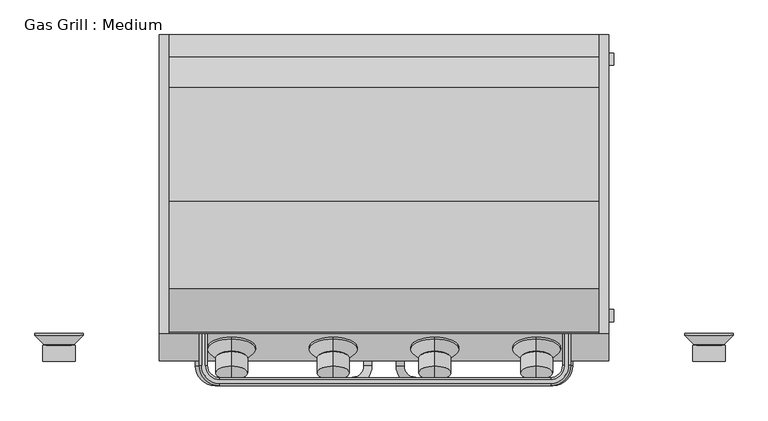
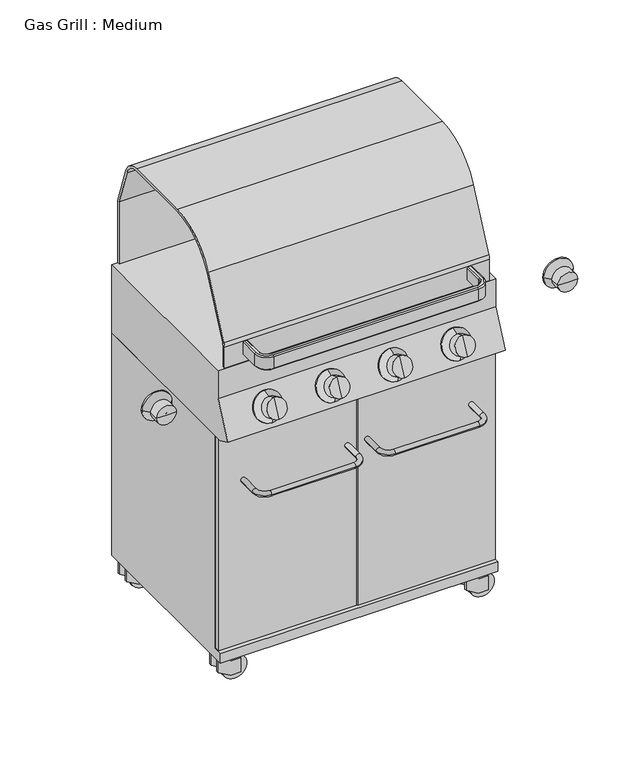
"""IFC4 building model written with IfcOpenShell, lengths in millimetres: proxy geometry, Gas Grill : Medium."""

from ifc_helpers import new_model, si_unit, point, frame, frame_2d, origin, place, context, project, spatial, polyline, circle_curve, ellipse_curve, trimmed, segment, composite_curve, outline, extrude, source, transform, mapped, element, save
from ifc_brep_helpers import plane_surface, cylinder_surface, revolved_surface, advanced_brep


def gas_grill_medium_e833fd83(model_context):
    return source(origin(), model_context, "Body", "SolidModel", [
        advanced_brep(
        [(-80.4333333, -237.6710003, 774.7559865), (-80.4333333, -269.8745119, 705.6953331), (-80.4333333, -253.7727561, 740.2256598), (-80.4333333, -240.5485275, 776.0977995), (-80.4333333, -272.7520391, 707.0371461), (-80.4333333, -259.5355585, 769.1870854), (-80.4333333, -279.6627532, 726.024177), (-80.4333333, -260.3034156, 771.2967555), (-80.4333333, -281.7724233, 725.2563199), (-80.4333333, -283.3236334, 782.0312593), (-80.4333333, -304.7926411, 735.9908238), (-80.4333333, -294.0581372, 759.0110415)],
        [
            (0, 1, circle_curve(frame((-80.4333333, -253.7727561, 740.2256598), z_axis=(0.0, 0.9063077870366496, -0.42261826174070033), x_axis=(0.0, -0.42261826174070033, -0.9063077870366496)), 38.1)),
            (1, 2),
            (2, 0),
            (1, 0, circle_curve(frame((-80.4333333, -253.7727561, 740.2256598), z_axis=(0.0, 0.9063077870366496, -0.42261826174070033), x_axis=(0.0, -0.42261826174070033, -0.9063077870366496)), 38.1)),
            (3, 4, circle_curve(frame((-80.4333333, -256.6502833, 741.5674728), z_axis=(0.0, 0.9063077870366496, -0.42261826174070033), x_axis=(0.0, -0.42261826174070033, -0.9063077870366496)), 38.1)),
            (4, 1),
            (0, 3),
            (4, 3, circle_curve(frame((-80.4333333, -256.6502833, 741.5674728), z_axis=(0.0, 0.9063077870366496, -0.42261826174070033), x_axis=(0.0, -0.42261826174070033, -0.9063077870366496)), 38.1)),
            (5, 6, circle_curve(frame((-80.4333333, -269.5991558, 747.6056312), z_axis=(0.0, 0.9063077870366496, -0.42261826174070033), x_axis=(0.0, -0.42261826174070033, -0.9063077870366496)), 23.8125)),
            (6, 4),
            (3, 5),
            (6, 5, circle_curve(frame((-80.4333333, -269.5991558, 747.6056312), z_axis=(0.0, 0.9063077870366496, -0.42261826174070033), x_axis=(0.0, -0.42261826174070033, -0.9063077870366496)), 23.8125)),
            (7, 8, circle_curve(frame((-80.4333333, -271.0379194, 748.2765377), z_axis=(0.0, 0.9063077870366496, -0.42261826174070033), x_axis=(0.0, -0.42261826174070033, -0.9063077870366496)), 25.4)),
            (8, 6),
            (5, 7),
            (8, 7, circle_curve(frame((-80.4333333, -271.0379194, 748.2765377), z_axis=(0.0, 0.9063077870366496, -0.42261826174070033), x_axis=(0.0, -0.42261826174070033, -0.9063077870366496)), 25.4)),
            (9, 10, circle_curve(frame((-80.4333333, -294.0581372, 759.0110415), z_axis=(0.0, 0.9063077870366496, -0.42261826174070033), x_axis=(0.0, -0.42261826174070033, -0.9063077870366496)), 25.4)),
            (10, 8),
            (7, 9),
            (10, 9, circle_curve(frame((-80.4333333, -294.0581372, 759.0110415), z_axis=(0.0, 0.9063077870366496, -0.42261826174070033), x_axis=(0.0, -0.42261826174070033, -0.9063077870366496)), 25.4)),
            (11, 10),
            (9, 11),
        ],
        [
            plane_surface(frame((-80.4333333, -253.7727561, 740.2256598), z_axis=(0.0, 0.9063077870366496, -0.42261826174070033), x_axis=(0.0, -0.42261826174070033, -0.9063077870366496))),
            cylinder_surface(frame((-80.4333333, -294.0581372, 759.0110415), z_axis=(0.0, -0.9063077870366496, 0.42261826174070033), x_axis=(0.0, -0.42261826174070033, -0.9063077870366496)), 38.1),
            revolved_surface(polyline([(-80.4333333, -272.7520391, 707.0371461), (-80.4333333, -279.6627532, 726.024177)]), (-80.4333333, -294.0581372, 759.0110415), (0.0, -0.9063077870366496, 0.42261826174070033)),
            revolved_surface(polyline([(-80.4333333, -279.6627532, 726.024177), (-80.4333333, -281.7724233, 725.2563199)]), (-80.4333333, -294.0581372, 759.0110415), (0.0, -0.9063077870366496, 0.42261826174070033)),
            cylinder_surface(frame((-80.4333333, -294.0581372, 759.0110415), z_axis=(0.0, -0.9063077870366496, 0.42261826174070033), x_axis=(0.0, -0.42261826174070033, -0.9063077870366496)), 25.4),
            plane_surface(frame((-80.4333333, -294.0581372, 759.0110415), z_axis=(0.0, -0.9063077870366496, 0.42261826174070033), x_axis=(0.0, -0.42261826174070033, -0.9063077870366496))),
        ],
        [
            (0, [[1, 2, 3]]),
            (0, [[4, -3, -2]]),
            (1, [[5, 6, -1, 7]]),
            (1, [[8, -7, -4, -6]]),
            (2, [[9, 10, -5, 11]]),
            (2, [[12, -11, -8, -10]]),
            (3, [[13, 14, -9, 15]]),
            (3, [[16, -15, -12, -14]]),
            (4, [[17, 18, -13, 19]]),
            (4, [[20, -19, -16, -18]]),
            (5, [[21, -17, 22]]),
            (5, [[-22, -20, -21]]),
        ],
    ),
        advanced_brep(
        [(80.4333333, -237.6710003, 774.7559865), (80.4333333, -269.8745119, 705.6953331), (80.4333333, -253.7727561, 740.2256598), (80.4333333, -240.5485275, 776.0977995), (80.4333333, -272.7520391, 707.0371461), (80.4333333, -259.5355585, 769.1870854), (80.4333333, -279.6627532, 726.024177), (80.4333333, -260.3034156, 771.2967555), (80.4333333, -281.7724233, 725.2563199), (80.4333333, -283.3236334, 782.0312593), (80.4333333, -304.7926411, 735.9908238), (80.4333333, -294.0581372, 759.0110415)],
        [
            (0, 1, circle_curve(frame((80.4333333, -253.7727561, 740.2256598), z_axis=(0.0, 0.9063077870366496, -0.42261826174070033), x_axis=(0.0, -0.42261826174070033, -0.9063077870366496)), 38.1)),
            (1, 2),
            (2, 0),
            (1, 0, circle_curve(frame((80.4333333, -253.7727561, 740.2256598), z_axis=(0.0, 0.9063077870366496, -0.42261826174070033), x_axis=(0.0, -0.42261826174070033, -0.9063077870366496)), 38.1)),
            (3, 4, circle_curve(frame((80.4333333, -256.6502833, 741.5674728), z_axis=(0.0, 0.9063077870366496, -0.42261826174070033), x_axis=(0.0, -0.42261826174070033, -0.9063077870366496)), 38.1)),
            (4, 1),
            (0, 3),
            (4, 3, circle_curve(frame((80.4333333, -256.6502833, 741.5674728), z_axis=(0.0, 0.9063077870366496, -0.42261826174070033), x_axis=(0.0, -0.42261826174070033, -0.9063077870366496)), 38.1)),
            (5, 6, circle_curve(frame((80.4333333, -269.5991558, 747.6056312), z_axis=(0.0, 0.9063077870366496, -0.42261826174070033), x_axis=(0.0, -0.42261826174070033, -0.9063077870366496)), 23.8125)),
            (6, 4),
            (3, 5),
            (6, 5, circle_curve(frame((80.4333333, -269.5991558, 747.6056312), z_axis=(0.0, 0.9063077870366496, -0.42261826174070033), x_axis=(0.0, -0.42261826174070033, -0.9063077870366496)), 23.8125)),
            (7, 8, circle_curve(frame((80.4333333, -271.0379194, 748.2765377), z_axis=(0.0, 0.9063077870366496, -0.42261826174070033), x_axis=(0.0, -0.42261826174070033, -0.9063077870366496)), 25.4)),
            (8, 6),
            (5, 7),
            (8, 7, circle_curve(frame((80.4333333, -271.0379194, 748.2765377), z_axis=(0.0, 0.9063077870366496, -0.42261826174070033), x_axis=(0.0, -0.42261826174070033, -0.9063077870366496)), 25.4)),
            (9, 10, circle_curve(frame((80.4333333, -294.0581372, 759.0110415), z_axis=(0.0, 0.9063077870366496, -0.42261826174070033), x_axis=(0.0, -0.42261826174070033, -0.9063077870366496)), 25.4)),
            (10, 8),
            (7, 9),
            (10, 9, circle_curve(frame((80.4333333, -294.0581372, 759.0110415), z_axis=(0.0, 0.9063077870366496, -0.42261826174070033), x_axis=(0.0, -0.42261826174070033, -0.9063077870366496)), 25.4)),
            (11, 10),
            (9, 11),
        ],
        [
            plane_surface(frame((80.4333333, -253.7727561, 740.2256598), z_axis=(0.0, 0.9063077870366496, -0.42261826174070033), x_axis=(0.0, -0.42261826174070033, -0.9063077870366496))),
            cylinder_surface(frame((80.4333333, -294.0581372, 759.0110415), z_axis=(0.0, -0.9063077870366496, 0.42261826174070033), x_axis=(0.0, -0.42261826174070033, -0.9063077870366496)), 38.1),
            revolved_surface(polyline([(80.4333333, -272.7520391, 707.0371461), (80.4333333, -279.6627532, 726.024177)]), (80.4333333, -294.0581372, 759.0110415), (0.0, -0.9063077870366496, 0.42261826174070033)),
            revolved_surface(polyline([(80.4333333, -279.6627532, 726.024177), (80.4333333, -281.7724233, 725.2563199)]), (80.4333333, -294.0581372, 759.0110415), (0.0, -0.9063077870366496, 0.42261826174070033)),
            cylinder_surface(frame((80.4333333, -294.0581372, 759.0110415), z_axis=(0.0, -0.9063077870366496, 0.42261826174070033), x_axis=(0.0, -0.42261826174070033, -0.9063077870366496)), 25.4),
            plane_surface(frame((80.4333333, -294.0581372, 759.0110415), z_axis=(0.0, -0.9063077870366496, 0.42261826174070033), x_axis=(0.0, -0.42261826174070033, -0.9063077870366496))),
        ],
        [
            (0, [[1, 2, 3]]),
            (0, [[4, -3, -2]]),
            (1, [[5, 6, -1, 7]]),
            (1, [[8, -7, -4, -6]]),
            (2, [[9, 10, -5, 11]]),
            (2, [[12, -11, -8, -10]]),
            (3, [[13, 14, -9, 15]]),
            (3, [[16, -15, -12, -14]]),
            (4, [[17, 18, -13, 19]]),
            (4, [[20, -19, -16, -18]]),
            (5, [[21, -17, 22]]),
            (5, [[-22, -20, -21]]),
        ],
    ),
        advanced_brep(
        [(-476.25, -231.775, 825.5), (-514.35, -231.775, 825.5), (-552.45, -231.775, 825.5), (-476.25, -234.95, 825.5), (-552.45, -234.95, 825.5), (-490.5375, -249.2375, 825.5), (-538.1625, -249.2375, 825.5), (-488.95, -250.825, 825.5), (-539.75, -250.825, 825.5), (-488.95, -276.225, 825.5), (-539.75, -276.225, 825.5), (-514.35, -276.225, 825.5)],
        [
            (0, 1),
            (1, 2),
            (2, 0, circle_curve(frame((-514.35, -231.775, 825.5), z_axis=(0.0, 1.0, 0.0), x_axis=(-1.0, 0.0, 0.0)), 38.1)),
            (0, 2, circle_curve(frame((-514.35, -231.775, 825.5), z_axis=(0.0, 1.0, 0.0), x_axis=(-1.0, 0.0, 0.0)), 38.1)),
            (3, 0),
            (2, 4),
            (4, 3, circle_curve(frame((-514.35, -234.95, 825.5), z_axis=(0.0, 1.0, 0.0), x_axis=(-1.0, 0.0, 0.0)), 38.1)),
            (3, 4, circle_curve(frame((-514.35, -234.95, 825.5), z_axis=(0.0, 1.0, 0.0), x_axis=(-1.0, 0.0, 0.0)), 38.1)),
            (5, 3),
            (4, 6),
            (6, 5, circle_curve(frame((-514.35, -249.2375, 825.5), z_axis=(0.0, 1.0, 0.0), x_axis=(-1.0, 0.0, 0.0)), 23.8125)),
            (5, 6, circle_curve(frame((-514.35, -249.2375, 825.5), z_axis=(0.0, 1.0, 0.0), x_axis=(-1.0, 0.0, 0.0)), 23.8125)),
            (7, 5),
            (6, 8),
            (8, 7, circle_curve(frame((-514.35, -250.825, 825.5), z_axis=(0.0, 1.0, 0.0), x_axis=(-1.0, 0.0, 0.0)), 25.4)),
            (7, 8, circle_curve(frame((-514.35, -250.825, 825.5), z_axis=(0.0, 1.0, 0.0), x_axis=(-1.0, 0.0, 0.0)), 25.4)),
            (9, 7),
            (8, 10),
            (10, 9, circle_curve(frame((-514.35, -276.225, 825.5), z_axis=(0.0, 1.0, 0.0), x_axis=(-1.0, 0.0, 0.0)), 25.4)),
            (9, 10, circle_curve(frame((-514.35, -276.225, 825.5), z_axis=(0.0, 1.0, 0.0), x_axis=(-1.0, 0.0, 0.0)), 25.4)),
            (11, 9),
            (10, 11),
        ],
        [
            plane_surface(frame((-514.35, -231.775, 825.5), z_axis=(0.0, 1.0, 0.0), x_axis=(-1.0, 0.0, 0.0))),
            cylinder_surface(frame((-514.35, -276.225, 825.5), z_axis=(0.0, -1.0, 0.0), x_axis=(-1.0, 0.0, 0.0)), 38.1),
            revolved_surface(polyline([(-552.45, -234.95, 825.5), (-538.1625, -249.2375, 825.5)]), (-514.35, -276.225, 825.5), (0.0, -1.0, 0.0)),
            revolved_surface(polyline([(-538.1625, -249.2375, 825.5), (-539.75, -250.825, 825.5)]), (-514.35, -276.225, 825.5), (0.0, -1.0, 0.0)),
            cylinder_surface(frame((-514.35, -276.225, 825.5), z_axis=(0.0, -1.0, 0.0), x_axis=(-1.0, 0.0, 0.0)), 25.4),
            plane_surface(frame((-514.35, -276.225, 825.5), z_axis=(0.0, -1.0, 0.0), x_axis=(-1.0, 0.0, 0.0))),
        ],
        [
            (0, [[1, 2, 3]]),
            (0, [[-2, -1, 4]]),
            (1, [[5, -3, 6, 7]]),
            (1, [[-6, -4, -5, 8]]),
            (2, [[9, -7, 10, 11]]),
            (2, [[-10, -8, -9, 12]]),
            (3, [[13, -11, 14, 15]]),
            (3, [[-14, -12, -13, 16]]),
            (4, [[17, -15, 18, 19]]),
            (4, [[-18, -16, -17, 20]]),
            (5, [[21, -19, 22]]),
            (5, [[-22, -20, -21]]),
        ],
    ),
        advanced_brep(
        [(-241.3, -237.6710003, 774.7559865), (-241.3, -269.8745119, 705.6953331), (-241.3, -253.7727561, 740.2256598), (-241.3, -240.5485275, 776.0977995), (-241.3, -272.7520391, 707.0371461), (-241.3, -259.5355585, 769.1870854), (-241.3, -279.6627532, 726.024177), (-241.3, -260.3034156, 771.2967555), (-241.3, -281.7724233, 725.2563199), (-241.3, -283.3236334, 782.0312593), (-241.3, -304.7926411, 735.9908238), (-241.3, -294.0581372, 759.0110415)],
        [
            (0, 1, circle_curve(frame((-241.3, -253.7727561, 740.2256598), z_axis=(0.0, 0.9063077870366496, -0.42261826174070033), x_axis=(0.0, -0.42261826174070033, -0.9063077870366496)), 38.1)),
            (1, 2),
            (2, 0),
            (1, 0, circle_curve(frame((-241.3, -253.7727561, 740.2256598), z_axis=(0.0, 0.9063077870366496, -0.42261826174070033), x_axis=(0.0, -0.42261826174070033, -0.9063077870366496)), 38.1)),
            (3, 4, circle_curve(frame((-241.3, -256.6502833, 741.5674728), z_axis=(0.0, 0.9063077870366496, -0.42261826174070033), x_axis=(0.0, -0.42261826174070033, -0.9063077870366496)), 38.1)),
            (4, 1),
            (0, 3),
            (4, 3, circle_curve(frame((-241.3, -256.6502833, 741.5674728), z_axis=(0.0, 0.9063077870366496, -0.42261826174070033), x_axis=(0.0, -0.42261826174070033, -0.9063077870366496)), 38.1)),
            (5, 6, circle_curve(frame((-241.3, -269.5991558, 747.6056312), z_axis=(0.0, 0.9063077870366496, -0.42261826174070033), x_axis=(0.0, -0.42261826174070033, -0.9063077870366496)), 23.8125)),
            (6, 4),
            (3, 5),
            (6, 5, circle_curve(frame((-241.3, -269.5991558, 747.6056312), z_axis=(0.0, 0.9063077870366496, -0.42261826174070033), x_axis=(0.0, -0.42261826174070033, -0.9063077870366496)), 23.8125)),
            (7, 8, circle_curve(frame((-241.3, -271.0379194, 748.2765377), z_axis=(0.0, 0.9063077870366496, -0.42261826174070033), x_axis=(0.0, -0.42261826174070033, -0.9063077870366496)), 25.4)),
            (8, 6),
            (5, 7),
            (8, 7, circle_curve(frame((-241.3, -271.0379194, 748.2765377), z_axis=(0.0, 0.9063077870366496, -0.42261826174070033), x_axis=(0.0, -0.42261826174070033, -0.9063077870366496)), 25.4)),
            (9, 10, circle_curve(frame((-241.3, -294.0581372, 759.0110415), z_axis=(0.0, 0.9063077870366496, -0.42261826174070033), x_axis=(0.0, -0.42261826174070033, -0.9063077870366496)), 25.4)),
            (10, 8),
            (7, 9),
            (10, 9, circle_curve(frame((-241.3, -294.0581372, 759.0110415), z_axis=(0.0, 0.9063077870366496, -0.42261826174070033), x_axis=(0.0, -0.42261826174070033, -0.9063077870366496)), 25.4)),
            (11, 10),
            (9, 11),
        ],
        [
            plane_surface(frame((-241.3, -253.7727561, 740.2256598), z_axis=(0.0, 0.9063077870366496, -0.42261826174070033), x_axis=(0.0, -0.42261826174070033, -0.9063077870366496))),
            cylinder_surface(frame((-241.3, -294.0581372, 759.0110415), z_axis=(0.0, -0.9063077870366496, 0.42261826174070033), x_axis=(0.0, -0.42261826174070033, -0.9063077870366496)), 38.1),
            revolved_surface(polyline([(-241.3, -272.7520391, 707.0371461), (-241.3, -279.6627532, 726.024177)]), (-241.3, -294.0581372, 759.0110415), (0.0, -0.9063077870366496, 0.42261826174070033)),
            revolved_surface(polyline([(-241.3, -279.6627532, 726.024177), (-241.3, -281.7724233, 725.2563199)]), (-241.3, -294.0581372, 759.0110415), (0.0, -0.9063077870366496, 0.42261826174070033)),
            cylinder_surface(frame((-241.3, -294.0581372, 759.0110415), z_axis=(0.0, -0.9063077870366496, 0.42261826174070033), x_axis=(0.0, -0.42261826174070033, -0.9063077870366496)), 25.4),
            plane_surface(frame((-241.3, -294.0581372, 759.0110415), z_axis=(0.0, -0.9063077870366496, 0.42261826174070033), x_axis=(0.0, -0.42261826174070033, -0.9063077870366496))),
        ],
        [
            (0, [[1, 2, 3]]),
            (0, [[4, -3, -2]]),
            (1, [[5, 6, -1, 7]]),
            (1, [[8, -7, -4, -6]]),
            (2, [[9, 10, -5, 11]]),
            (2, [[12, -11, -8, -10]]),
            (3, [[13, 14, -9, 15]]),
            (3, [[16, -15, -12, -14]]),
            (4, [[17, 18, -13, 19]]),
            (4, [[20, -19, -16, -18]]),
            (5, [[21, -17, 22]]),
            (5, [[-22, -20, -21]]),
        ],
    ),
        advanced_brep(
        [(476.25, -231.775, 825.5), (552.45, -231.775, 825.5), (514.35, -231.775, 825.5), (476.25, -234.95, 825.5), (552.45, -234.95, 825.5), (490.5375, -249.2375, 825.5), (538.1625, -249.2375, 825.5), (488.95, -250.825, 825.5), (539.75, -250.825, 825.5), (488.95, -276.225, 825.5), (539.75, -276.225, 825.5), (514.35, -276.225, 825.5)],
        [
            (0, 1, circle_curve(frame((514.35, -231.775, 825.5), z_axis=(0.0, 1.0, 0.0), x_axis=(1.0, 0.0, 0.0)), 38.1)),
            (1, 2),
            (2, 0),
            (1, 0, circle_curve(frame((514.35, -231.775, 825.5), z_axis=(0.0, 1.0, 0.0), x_axis=(1.0, 0.0, 0.0)), 38.1)),
            (3, 4, circle_curve(frame((514.35, -234.95, 825.5), z_axis=(0.0, 1.0, 0.0), x_axis=(1.0, 0.0, 0.0)), 38.1)),
            (4, 1),
            (0, 3),
            (4, 3, circle_curve(frame((514.35, -234.95, 825.5), z_axis=(0.0, 1.0, 0.0), x_axis=(1.0, 0.0, 0.0)), 38.1)),
            (5, 6, circle_curve(frame((514.35, -249.2375, 825.5), z_axis=(0.0, 1.0, 0.0), x_axis=(1.0, 0.0, 0.0)), 23.8125)),
            (6, 4),
            (3, 5),
            (6, 5, circle_curve(frame((514.35, -249.2375, 825.5), z_axis=(0.0, 1.0, 0.0), x_axis=(1.0, 0.0, 0.0)), 23.8125)),
            (7, 8, circle_curve(frame((514.35, -250.825, 825.5), z_axis=(0.0, 1.0, 0.0), x_axis=(1.0, 0.0, 0.0)), 25.4)),
            (8, 6),
            (5, 7),
            (8, 7, circle_curve(frame((514.35, -250.825, 825.5), z_axis=(0.0, 1.0, 0.0), x_axis=(1.0, 0.0, 0.0)), 25.4)),
            (9, 10, circle_curve(frame((514.35, -276.225, 825.5), z_axis=(0.0, 1.0, 0.0), x_axis=(1.0, 0.0, 0.0)), 25.4)),
            (10, 8),
            (7, 9),
            (10, 9, circle_curve(frame((514.35, -276.225, 825.5), z_axis=(0.0, 1.0, 0.0), x_axis=(1.0, 0.0, 0.0)), 25.4)),
            (11, 10),
            (9, 11),
        ],
        [
            plane_surface(frame((514.35, -231.775, 825.5), z_axis=(0.0, 1.0, 0.0), x_axis=(1.0, 0.0, 0.0))),
            cylinder_surface(frame((514.35, -276.225, 825.5), z_axis=(0.0, -1.0, 0.0), x_axis=(1.0, 0.0, 0.0)), 38.1),
            revolved_surface(polyline([(552.45, -234.95, 825.5), (538.1625, -249.2375, 825.5)]), (514.35, -276.225, 825.5), (0.0, -1.0, 0.0)),
            revolved_surface(polyline([(538.1625, -249.2375, 825.5), (539.75, -250.825, 825.5)]), (514.35, -276.225, 825.5), (0.0, -1.0, 0.0)),
            cylinder_surface(frame((514.35, -276.225, 825.5), z_axis=(0.0, -1.0, 0.0), x_axis=(1.0, 0.0, 0.0)), 25.4),
            plane_surface(frame((514.35, -276.225, 825.5), z_axis=(0.0, -1.0, 0.0), x_axis=(1.0, 0.0, 0.0))),
        ],
        [
            (0, [[1, 2, 3]]),
            (0, [[4, -3, -2]]),
            (1, [[5, 6, -1, 7]]),
            (1, [[8, -7, -4, -6]]),
            (2, [[9, 10, -5, 11]]),
            (2, [[12, -11, -8, -10]]),
            (3, [[13, 14, -9, 15]]),
            (3, [[16, -15, -12, -14]]),
            (4, [[17, 18, -13, 19]]),
            (4, [[20, -19, -16, -18]]),
            (5, [[21, -17, 22]]),
            (5, [[-22, -20, -21]]),
        ],
    ),
        advanced_brep(
        [(241.3, -237.6710003, 774.7559865), (241.3, -269.8745119, 705.6953331), (241.3, -253.7727561, 740.2256598), (241.3, -240.5485275, 776.0977995), (241.3, -272.7520391, 707.0371461), (241.3, -259.5355585, 769.1870854), (241.3, -279.6627532, 726.024177), (241.3, -260.3034156, 771.2967555), (241.3, -281.7724233, 725.2563199), (241.3, -283.3236334, 782.0312593), (241.3, -304.7926411, 735.9908238), (241.3, -294.0581372, 759.0110415)],
        [
            (0, 1, circle_curve(frame((241.3, -253.7727561, 740.2256598), z_axis=(0.0, 0.9063077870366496, -0.42261826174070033), x_axis=(0.0, -0.42261826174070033, -0.9063077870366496)), 38.1)),
            (1, 2),
            (2, 0),
            (1, 0, circle_curve(frame((241.3, -253.7727561, 740.2256598), z_axis=(0.0, 0.9063077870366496, -0.42261826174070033), x_axis=(0.0, -0.42261826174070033, -0.9063077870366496)), 38.1)),
            (3, 4, circle_curve(frame((241.3, -256.6502833, 741.5674728), z_axis=(0.0, 0.9063077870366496, -0.42261826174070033), x_axis=(0.0, -0.42261826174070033, -0.9063077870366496)), 38.1)),
            (4, 1),
            (0, 3),
            (4, 3, circle_curve(frame((241.3, -256.6502833, 741.5674728), z_axis=(0.0, 0.9063077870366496, -0.42261826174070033), x_axis=(0.0, -0.42261826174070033, -0.9063077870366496)), 38.1)),
            (5, 6, circle_curve(frame((241.3, -269.5991558, 747.6056312), z_axis=(0.0, 0.9063077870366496, -0.42261826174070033), x_axis=(0.0, -0.42261826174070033, -0.9063077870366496)), 23.8125)),
            (6, 4),
            (3, 5),
            (6, 5, circle_curve(frame((241.3, -269.5991558, 747.6056312), z_axis=(0.0, 0.9063077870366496, -0.42261826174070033), x_axis=(0.0, -0.42261826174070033, -0.9063077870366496)), 23.8125)),
            (7, 8, circle_curve(frame((241.3, -271.0379194, 748.2765377), z_axis=(0.0, 0.9063077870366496, -0.42261826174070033), x_axis=(0.0, -0.42261826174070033, -0.9063077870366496)), 25.4)),
            (8, 6),
            (5, 7),
            (8, 7, circle_curve(frame((241.3, -271.0379194, 748.2765377), z_axis=(0.0, 0.9063077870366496, -0.42261826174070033), x_axis=(0.0, -0.42261826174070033, -0.9063077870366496)), 25.4)),
            (9, 10, circle_curve(frame((241.3, -294.0581372, 759.0110415), z_axis=(0.0, 0.9063077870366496, -0.42261826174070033), x_axis=(0.0, -0.42261826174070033, -0.9063077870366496)), 25.4)),
            (10, 8),
            (7, 9),
            (10, 9, circle_curve(frame((241.3, -294.0581372, 759.0110415), z_axis=(0.0, 0.9063077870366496, -0.42261826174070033), x_axis=(0.0, -0.42261826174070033, -0.9063077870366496)), 25.4)),
            (11, 10),
            (9, 11),
        ],
        [
            plane_surface(frame((241.3, -253.7727561, 740.2256598), z_axis=(0.0, 0.9063077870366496, -0.42261826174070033), x_axis=(0.0, -0.42261826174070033, -0.9063077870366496))),
            cylinder_surface(frame((241.3, -294.0581372, 759.0110415), z_axis=(0.0, -0.9063077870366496, 0.42261826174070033), x_axis=(0.0, -0.42261826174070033, -0.9063077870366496)), 38.1),
            revolved_surface(polyline([(241.3, -272.7520391, 707.0371461), (241.3, -279.6627532, 726.024177)]), (241.3, -294.0581372, 759.0110415), (0.0, -0.9063077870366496, 0.42261826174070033)),
            revolved_surface(polyline([(241.3, -279.6627532, 726.024177), (241.3, -281.7724233, 725.2563199)]), (241.3, -294.0581372, 759.0110415), (0.0, -0.9063077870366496, 0.42261826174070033)),
            cylinder_surface(frame((241.3, -294.0581372, 759.0110415), z_axis=(0.0, -0.9063077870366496, 0.42261826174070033), x_axis=(0.0, -0.42261826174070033, -0.9063077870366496)), 25.4),
            plane_surface(frame((241.3, -294.0581372, 759.0110415), z_axis=(0.0, -0.9063077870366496, 0.42261826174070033), x_axis=(0.0, -0.42261826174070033, -0.9063077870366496))),
        ],
        [
            (0, [[1, 2, 3]]),
            (0, [[4, -3, -2]]),
            (1, [[5, 6, -1, 7]]),
            (1, [[8, -7, -4, -6]]),
            (2, [[9, 10, -5, 11]]),
            (2, [[12, -11, -8, -10]]),
            (3, [[13, 14, -9, 15]]),
            (3, [[16, -15, -12, -14]]),
            (4, [[17, 18, -13, 19]]),
            (4, [[20, -19, -16, -18]]),
            (5, [[21, -17, 22]]),
            (5, [[-22, -20, -21]]),
        ],
    ),
        extrude(outline(polyline([(37.380871, 285.2704136), (19.05, 317.0204136), (19.05, 342.4204136), (57.15, 342.4204136), (57.15, 316.2781091), (76.2, 311.173677), (76.2, 285.2704136), (37.380871, 285.2704136)])), frame((0.0, -222.25, 0.0), z_axis=(0.0, 1.0, 0.0), x_axis=(0.0, 0.0, 1.0)), (0.0, 0.0, 1.0), 6.35),
        extrude(outline(composite_curve([segment(trimmed(circle_curve(frame_2d((31.75, 331.4717065)), 31.75), [point((0.0, 331.4717065))], [point((63.5, 331.4717065))], False, "CARTESIAN"), True, "CONTINUOUS"), segment(trimmed(circle_curve(frame_2d((31.75, 331.4717065)), 31.75), [point((63.5, 331.4717065))], [point((0.0, 331.4717065))], False, "CARTESIAN"), True, "CONTINUOUS")], self_intersect=False)), frame((0.0, -212.852, 0.0), z_axis=(0.0, 1.0, 0.0), x_axis=(0.0, 0.0, 1.0)), (0.0, 0.0, 1.0), 19.304),
        extrude(outline(polyline([(37.380871, 285.2704136), (19.05, 317.0204136), (19.05, 342.4204136), (57.15, 342.4204136), (57.15, 316.2781091), (76.2, 311.173677), (76.2, 285.2704136), (37.380871, 285.2704136)])), frame((0.0, -190.5, 0.0), z_axis=(0.0, 1.0, 0.0), x_axis=(0.0, 0.0, 1.0)), (0.0, 0.0, 1.0), 6.35),
        advanced_brep(
        [(-282.702, -231.775, 920.75), (-279.4, -231.775, 917.448), (-279.4, -231.775, 885.952), (-282.702, -231.775, 882.65), (-288.798, -231.775, 882.65), (-292.1, -231.775, 885.952), (-292.1, -231.775, 917.448), (-288.798, -231.775, 920.75), (285.877, -231.775, 920.75), (291.973, -231.775, 920.75), (295.275, -231.775, 917.448), (295.275, -231.775, 885.952), (291.973, -231.775, 882.65), (285.877, -231.775, 882.65), (282.575, -231.775, 885.952), (282.575, -231.775, 917.448), (-282.702, -282.575, 920.75), (-279.4, -282.575, 917.448), (-279.4, -282.575, 885.952), (-282.702, -282.575, 882.65), (-260.35, -304.927, 882.65), (263.525, -304.927, 882.65), (285.877, -282.575, 882.65), (291.973, -282.575, 882.65), (263.525, -311.023, 882.65), (-260.35, -311.023, 882.65), (-288.798, -282.575, 882.65), (-292.1, -282.575, 885.952), (-292.1, -282.575, 917.448), (-288.798, -282.575, 920.75), (-260.35, -311.023, 920.75), (263.525, -311.023, 920.75), (291.973, -282.575, 920.75), (285.877, -282.575, 920.75), (263.525, -304.927, 920.75), (-260.35, -304.927, 920.75), (-260.35, -301.625, 917.448), (-260.35, -301.625, 885.952), (-260.35, -314.325, 885.952), (-260.35, -314.325, 917.448), (263.525, -301.625, 917.448), (263.525, -301.625, 885.952), (263.525, -314.325, 885.952), (263.525, -314.325, 917.448), (282.575, -282.575, 917.448), (282.575, -282.575, 885.952), (295.275, -282.575, 885.952), (295.275, -282.575, 917.448)],
        [
            (0, 1),
            (1, 2),
            (2, 3),
            (3, 4),
            (4, 5),
            (5, 6),
            (6, 7),
            (7, 0),
            (8, 9),
            (9, 10),
            (10, 11),
            (11, 12),
            (12, 13),
            (13, 14),
            (14, 15),
            (15, 8),
            (0, 16),
            (16, 17),
            (17, 1),
            (17, 18),
            (18, 2),
            (18, 19),
            (19, 3),
            (19, 20, circle_curve(frame((-260.35, -282.575, 882.65), z_axis=(0.0, 0.0, 1.0), x_axis=(-1.0, 0.0, 0.0)), 22.352)),
            (20, 21),
            (21, 22, circle_curve(frame((263.525, -282.575, 882.65), z_axis=(0.0, 0.0, 1.0), x_axis=(0.0, -1.0, 0.0)), 22.352)),
            (22, 13),
            (12, 23),
            (23, 24, circle_curve(frame((263.525, -282.575, 882.65), z_axis=(0.0, 0.0, -1.0), x_axis=(0.0, -1.0, 0.0)), 28.448)),
            (24, 25),
            (25, 26, circle_curve(frame((-260.35, -282.575, 882.65), z_axis=(0.0, 0.0, -1.0), x_axis=(-1.0, 0.0, 0.0)), 28.448)),
            (26, 4),
            (26, 27),
            (27, 5),
            (27, 28),
            (28, 6),
            (28, 29),
            (29, 7),
            (29, 30, circle_curve(frame((-260.35, -282.575, 920.75), z_axis=(0.0, 0.0, 1.0), x_axis=(-1.0, 0.0, 0.0)), 28.448)),
            (30, 31),
            (31, 32, circle_curve(frame((263.525, -282.575, 920.75), z_axis=(0.0, 0.0, 1.0), x_axis=(0.0, -1.0, 0.0)), 28.448)),
            (32, 9),
            (8, 33),
            (33, 34, circle_curve(frame((263.525, -282.575, 920.75), z_axis=(0.0, 0.0, -1.0), x_axis=(0.0, -1.0, 0.0)), 22.352)),
            (34, 35),
            (35, 16, circle_curve(frame((-260.35, -282.575, 920.75), z_axis=(0.0, 0.0, -1.0), x_axis=(-1.0, 0.0, 0.0)), 22.352)),
            (36, 17, circle_curve(frame((-260.35, -282.575, 917.448), z_axis=(0.0, 0.0, -1.0), x_axis=(-1.0, 0.0, 0.0)), 19.05)),
            (35, 36),
            (37, 18, circle_curve(frame((-260.35, -282.575, 885.952), z_axis=(0.0, 0.0, -1.0), x_axis=(-1.0, 0.0, 0.0)), 19.05)),
            (36, 37),
            (37, 20),
            (38, 27, circle_curve(frame((-260.35, -282.575, 885.952), z_axis=(0.0, 0.0, -1.0), x_axis=(-1.0, 0.0, 0.0)), 31.75)),
            (25, 38),
            (39, 28, circle_curve(frame((-260.35, -282.575, 917.448), z_axis=(0.0, 0.0, -1.0), x_axis=(-1.0, 0.0, 0.0)), 31.75)),
            (38, 39),
            (39, 30),
            (34, 40),
            (40, 36),
            (40, 41),
            (41, 37),
            (41, 21),
            (24, 42),
            (42, 38),
            (42, 43),
            (43, 39),
            (43, 31),
            (44, 40, circle_curve(frame((263.525, -282.575, 917.448), z_axis=(0.0, 0.0, -1.0), x_axis=(0.0, -1.0, 0.0)), 19.05)),
            (33, 44),
            (45, 41, circle_curve(frame((263.525, -282.575, 885.952), z_axis=(0.0, 0.0, -1.0), x_axis=(0.0, -1.0, 0.0)), 19.05)),
            (44, 45),
            (45, 22),
            (46, 42, circle_curve(frame((263.525, -282.575, 885.952), z_axis=(0.0, 0.0, -1.0), x_axis=(0.0, -1.0, 0.0)), 31.75)),
            (23, 46),
            (47, 43, circle_curve(frame((263.525, -282.575, 917.448), z_axis=(0.0, 0.0, -1.0), x_axis=(0.0, -1.0, 0.0)), 31.75)),
            (46, 47),
            (47, 32),
            (15, 44),
            (14, 45),
            (11, 46),
            (10, 47),
        ],
        [
            plane_surface(frame((-285.75, -231.775, 901.7), z_axis=(0.0, 1.0, 0.0), x_axis=(0.0, 0.0, 1.0))),
            plane_surface(frame((288.925, -231.775, 901.7), z_axis=(0.0, 1.0, 0.0), x_axis=(0.0, 0.0, 1.0))),
            plane_surface(frame((-282.702, -231.775, 920.75), z_axis=(0.7071067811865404, 0.0, 0.7071067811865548), x_axis=(0.0, -1.0, 0.0))),
            plane_surface(frame((-279.4, -231.775, 917.448), z_axis=(1.0, 0.0, 0.0), x_axis=(0.0, -1.0, 0.0))),
            plane_surface(frame((-279.4, -231.775, 885.952), z_axis=(0.7071067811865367, 0.0, -0.7071067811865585), x_axis=(0.0, -1.0, 0.0))),
            plane_surface(frame((-282.702, -231.775, 882.65), z_axis=(0.0, 0.0, -1.0), x_axis=(0.0, -1.0, 0.0))),
            plane_surface(frame((-288.798, -231.775, 882.65), z_axis=(-0.7071067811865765, 0.0, -0.7071067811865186), x_axis=(0.0, -1.0, 0.0))),
            plane_surface(frame((-292.1, -231.775, 885.952), z_axis=(-1.0, 0.0, 0.0), x_axis=(0.0, -1.0, 0.0))),
            plane_surface(frame((-292.1, -231.775, 917.448), z_axis=(-0.7071067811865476, 0.0, 0.7071067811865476), x_axis=(0.0, -1.0, 0.0))),
            plane_surface(frame((-288.798, -231.775, 920.75), z_axis=(0.0, 0.0, 1.0), x_axis=(0.0, -1.0, 0.0))),
            revolved_surface(polyline([(-282.702, -282.575, 920.75), (-279.4, -282.575, 917.448)]), (-260.35, -282.575, 901.7), (0.0, 0.0, 1.0)),
            revolved_surface(polyline([(-279.40000000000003, -282.575, 917.448), (-279.40000000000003, -282.575, 885.952)]), (-260.35, -282.575, 901.7), (0.0, 0.0, 1.0)),
            revolved_surface(polyline([(-279.4, -282.575, 885.952), (-282.702, -282.575, 882.65)]), (-260.35, -282.575, 901.7), (0.0, 0.0, 1.0)),
            revolved_surface(polyline([(-288.798, -282.575, 882.65), (-292.1, -282.575, 885.952)]), (-260.35, -282.575, 901.7), (0.0, 0.0, 1.0)),
            cylinder_surface(frame((-260.35, -282.575, 901.7), z_axis=(0.0, 0.0, 1.0), x_axis=(-1.0, 0.0, 0.0)), 31.75),
            revolved_surface(polyline([(-292.1, -282.575, 917.448), (-288.798, -282.575, 920.75)]), (-260.35, -282.575, 901.7), (0.0, 0.0, 1.0)),
            plane_surface(frame((-260.35, -304.927, 920.75), z_axis=(0.0, 0.7071067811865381, 0.707106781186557), x_axis=(1.0, 0.0, 0.0))),
            plane_surface(frame((-260.35, -301.625, 917.448), z_axis=(0.0, 1.0, 0.0), x_axis=(1.0, 0.0, 0.0))),
            plane_surface(frame((-260.35, -301.625, 885.952), z_axis=(0.0, 0.7071067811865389, -0.7071067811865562), x_axis=(1.0, 0.0, 0.0))),
            plane_surface(frame((-260.35, -311.023, 882.65), z_axis=(0.0, -0.7071067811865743, -0.7071067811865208), x_axis=(1.0, 0.0, 0.0))),
            plane_surface(frame((-260.35, -314.325, 885.952), z_axis=(0.0, -1.0, 0.0), x_axis=(1.0, 0.0, 0.0))),
            plane_surface(frame((-260.35, -314.325, 917.448), z_axis=(0.0, -0.7071067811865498, 0.7071067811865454), x_axis=(1.0, 0.0, 0.0))),
            revolved_surface(polyline([(263.525, -304.927, 920.75), (263.525, -301.625, 917.448)]), (263.525, -282.575, 901.7), (0.0, 0.0, 1.0)),
            revolved_surface(polyline([(263.525, -301.625, 917.448), (263.525, -301.625, 885.952)]), (263.525, -282.575, 901.7), (0.0, 0.0, 1.0)),
            revolved_surface(polyline([(263.525, -301.625, 885.952), (263.525, -304.927, 882.65)]), (263.525, -282.575, 901.7), (0.0, 0.0, 1.0)),
            revolved_surface(polyline([(263.525, -311.023, 882.65), (263.525, -314.325, 885.952)]), (263.525, -282.575, 901.7), (0.0, 0.0, 1.0)),
            cylinder_surface(frame((263.525, -282.575, 901.7), z_axis=(0.0, 0.0, 1.0), x_axis=(0.0, -1.0, 0.0)), 31.75),
            revolved_surface(polyline([(263.525, -314.325, 917.448), (263.525, -311.023, 920.75)]), (263.525, -282.575, 901.7), (0.0, 0.0, 1.0)),
            plane_surface(frame((285.877, -282.575, 920.75), z_axis=(-0.7071067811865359, 0.0, 0.7071067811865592), x_axis=(0.0, 1.0, 0.0))),
            plane_surface(frame((282.575, -282.575, 917.448), z_axis=(-1.0, 0.0, 0.0), x_axis=(0.0, 1.0, 0.0))),
            plane_surface(frame((282.575, -282.575, 885.952), z_axis=(-0.7071067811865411, 0.0, -0.707106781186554), x_axis=(0.0, 1.0, 0.0))),
            plane_surface(frame((291.973, -282.575, 882.65), z_axis=(0.7071067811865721, 0.0, -0.707106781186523), x_axis=(0.0, 1.0, 0.0))),
            plane_surface(frame((295.275, -282.575, 885.952), z_axis=(1.0, 0.0, 0.0), x_axis=(0.0, 1.0, 0.0))),
            plane_surface(frame((295.275, -282.575, 917.448), z_axis=(0.707106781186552, 0.0, 0.7071067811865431), x_axis=(0.0, 1.0, 0.0))),
        ],
        [
            (0, [[1, 2, 3, 4, 5, 6, 7, 8]]),
            (1, [[9, 10, 11, 12, 13, 14, 15, 16]]),
            (2, [[-1, 17, 18, 19]]),
            (3, [[-2, -19, 20, 21]]),
            (4, [[-3, -21, 22, 23]]),
            (5, [[-4, -23, 24, 25, 26, 27, -13, 28, 29, 30, 31, 32]]),
            (6, [[-5, -32, 33, 34]]),
            (7, [[-6, -34, 35, 36]]),
            (8, [[-7, -36, 37, 38]]),
            (9, [[-8, -38, 39, 40, 41, 42, -9, 43, 44, 45, 46, -17]]),
            (10, [[47, -18, -46, 48]]),
            (11, [[49, -20, -47, 50]]),
            (12, [[-24, -22, -49, 51]]),
            (13, [[52, -33, -31, 53]]),
            (14, [[54, -35, -52, 55]]),
            (15, [[-39, -37, -54, 56]]),
            (16, [[-48, -45, 57, 58]]),
            (17, [[-50, -58, 59, 60]]),
            (18, [[-51, -60, 61, -25]]),
            (19, [[-53, -30, 62, 63]]),
            (20, [[-55, -63, 64, 65]]),
            (21, [[-56, -65, 66, -40]]),
            (22, [[67, -57, -44, 68]]),
            (23, [[69, -59, -67, 70]]),
            (24, [[-26, -61, -69, 71]]),
            (25, [[72, -62, -29, 73]]),
            (26, [[74, -64, -72, 75]]),
            (27, [[-41, -66, -74, 76]]),
            (28, [[-68, -43, -16, 77]]),
            (29, [[-70, -77, -15, 78]]),
            (30, [[-71, -78, -14, -27]]),
            (31, [[-73, -28, -12, 79]]),
            (32, [[-75, -79, -11, 80]]),
            (33, [[-76, -80, -10, -42]]),
        ],
    ),
        extrude(outline(polyline([(37.380871, 285.2704136), (19.05, 317.0204136), (19.05, 342.4204136), (57.15, 342.4204136), (57.15, 316.2781091), (76.2, 311.173677), (76.2, 285.2704136), (37.380871, 285.2704136)])), frame((0.0, 215.9, 0.0), z_axis=(0.0, 1.0, 0.0), x_axis=(0.0, 0.0, 1.0)), (0.0, 0.0, 1.0), 6.35),
        extrude(outline(composite_curve([segment(trimmed(circle_curve(frame_2d((31.75, 331.4717065)), 31.75), [point((0.0, 331.4717065))], [point((63.5, 331.4717065))], False, "CARTESIAN"), True, "CONTINUOUS"), segment(trimmed(circle_curve(frame_2d((31.75, 331.4717065)), 31.75), [point((63.5, 331.4717065))], [point((0.0, 331.4717065))], False, "CARTESIAN"), True, "CONTINUOUS")], self_intersect=False)), frame((0.0, 193.548, 0.0), z_axis=(0.0, 1.0, 0.0), x_axis=(0.0, 0.0, 1.0)), (0.0, 0.0, 1.0), 19.304),
        extrude(outline(polyline([(37.380871, 285.2704136), (19.05, 317.0204136), (19.05, 342.4204136), (57.15, 342.4204136), (57.15, 316.2781091), (76.2, 311.173677), (76.2, 285.2704136), (37.380871, 285.2704136)])), frame((0.0, 184.15, 0.0), z_axis=(0.0, 1.0, 0.0), x_axis=(0.0, 0.0, 1.0)), (0.0, 0.0, 1.0), 6.35),
        extrude(outline(polyline([(37.380871, -349.7295864), (19.05, -317.9795864), (19.05, -292.5795864), (57.15, -292.5795864), (57.15, -318.7218909), (76.2, -323.826323), (76.2, -349.7295864), (37.380871, -349.7295864)])), frame((0.0, -222.25, 0.0), z_axis=(0.0, 1.0, 0.0), x_axis=(0.0, 0.0, 1.0)), (0.0, 0.0, 1.0), 6.35),
        extrude(outline(composite_curve([segment(trimmed(circle_curve(frame_2d((31.75, -303.5282935)), 31.75), [point((0.0, -303.5282935))], [point((63.5, -303.5282935))], False, "CARTESIAN"), True, "CONTINUOUS"), segment(trimmed(circle_curve(frame_2d((31.75, -303.5282935)), 31.75), [point((63.5, -303.5282935))], [point((0.0, -303.5282935))], False, "CARTESIAN"), True, "CONTINUOUS")], self_intersect=False)), frame((0.0, -212.852, 0.0), z_axis=(0.0, 1.0, 0.0), x_axis=(0.0, 0.0, 1.0)), (0.0, 0.0, 1.0), 19.304),
        extrude(outline(polyline([(37.380871, -349.7295864), (19.05, -317.9795864), (19.05, -292.5795864), (57.15, -292.5795864), (57.15, -318.7218909), (76.2, -323.826323), (76.2, -349.7295864), (37.380871, -349.7295864)])), frame((0.0, -190.5, 0.0), z_axis=(0.0, 1.0, 0.0), x_axis=(0.0, 0.0, 1.0)), (0.0, 0.0, 1.0), 6.35),
        extrude(outline(polyline([(37.380871, -349.7295864), (19.05, -317.9795864), (19.05, -292.5795864), (57.15, -292.5795864), (57.15, -318.7218909), (76.2, -323.826323), (76.2, -349.7295864), (37.380871, -349.7295864)])), frame((0.0, 215.9, 0.0), z_axis=(0.0, 1.0, 0.0), x_axis=(0.0, 0.0, 1.0)), (0.0, 0.0, 1.0), 6.35),
        extrude(outline(composite_curve([segment(trimmed(circle_curve(frame_2d((31.75, -303.5282935)), 31.75), [point((0.0, -303.5282935))], [point((63.5, -303.5282935))], False, "CARTESIAN"), True, "CONTINUOUS"), segment(trimmed(circle_curve(frame_2d((31.75, -303.5282935)), 31.75), [point((63.5, -303.5282935))], [point((0.0, -303.5282935))], False, "CARTESIAN"), True, "CONTINUOUS")], self_intersect=False)), frame((0.0, 193.548, 0.0), z_axis=(0.0, 1.0, 0.0), x_axis=(0.0, 0.0, 1.0)), (0.0, 0.0, 1.0), 19.304),
        extrude(outline(polyline([(37.380871, -349.7295864), (19.05, -317.9795864), (19.05, -292.5795864), (57.15, -292.5795864), (57.15, -318.7218909), (76.2, -323.826323), (76.2, -349.7295864), (37.380871, -349.7295864)])), frame((0.0, 184.15, 0.0), z_axis=(0.0, 1.0, 0.0), x_axis=(0.0, 0.0, 1.0)), (0.0, 0.0, 1.0), 6.35),
        extrude(outline(polyline([(-231.775, 787.4), (-231.775, 863.6), (241.3, 863.6), (241.3, 679.45), (-241.3, 679.45), (-274.8234728, 695.0822521), (-231.775, 787.4)])), frame((-355.6, 0.0, 0.0), z_axis=(1.0, 0.0, 0.0), x_axis=(0.0, 1.0, 0.0)), (0.0, 0.0, 1.0), 711.2),
        extrude(outline(polyline([(241.3, 76.2), (-241.3, 76.2), (-241.3, 101.6), (-215.9, 101.6), (-215.9, 679.45), (241.3, 679.45), (241.3, 76.2)])), frame((-355.6, 0.0, 0.0), z_axis=(1.0, 0.0, 0.0), x_axis=(0.0, 1.0, 0.0)), (0.0, 0.0, 1.0), 711.2),
        extrude(outline(polyline([(-1.524, -231.775), (-354.076, -231.775), (-354.076, -215.9), (-1.524, -215.9), (-1.524, -231.775)])), frame((0.0, 0.0, 103.124), z_axis=(0.0, 0.0, 1.0), x_axis=(1.0, 0.0, 0.0)), (0.0, 0.0, 1.0), 574.802),
        extrude(outline(polyline([(354.076, -231.775), (1.524, -231.775), (1.524, -215.9), (354.076, -215.9), (354.076, -231.775)])), frame((0.0, 0.0, 103.124), z_axis=(0.0, 0.0, 1.0), x_axis=(1.0, 0.0, 0.0)), (0.0, 0.0, 1.0), 574.802),
        extrude(outline(composite_curve([segment(polyline([(-225.425, 863.6), (-231.775, 863.6), (-231.775, 921.4689556)]), True, "CONTINUOUS"), segment(trimmed(circle_curve(frame_2d((-206.375, 921.4689556)), 25.4), [point((-231.775, 921.4689556))], [point((-229.3952178, 932.2034594))], False, "CARTESIAN"), True, "CONTINUOUS"), segment(polyline([(-229.3952178, 932.2034594), (-160.2867611, 1080.4070231)]), True, "CONTINUOUS"), segment(trimmed(circle_curve(frame_2d((-22.1654543, 1016.0)), 152.4), [point((-160.2867611, 1080.4070231))], [point((-22.1654543, 1168.4))], False, "CARTESIAN"), True, "CONTINUOUS"), segment(polyline([(-22.1654543, 1168.4), (158.4543579, 1168.4)]), True, "CONTINUOUS"), segment(trimmed(circle_curve(frame_2d((158.4543579, 1117.6)), 50.8), [point((158.4543579, 1168.4))], [point((206.4867016, 1134.1388622))], False, "CARTESIAN"), True, "CONTINUOUS"), segment(polyline([(206.4867016, 1134.1388622), (241.3, 1033.0337022), (241.3, 863.6), (234.95, 863.6), (234.95, 1031.9710766), (200.4826586, 1132.0715045)]), True, "CONTINUOUS"), segment(trimmed(circle_curve(frame_2d((158.4543579, 1117.6)), 44.45), [point((200.4826586, 1132.0715045))], [point((158.4543579, 1162.05))], True, "CARTESIAN"), True, "CONTINUOUS"), segment(polyline([(158.4543579, 1162.05), (-22.1654543, 1162.05)]), True, "CONTINUOUS"), segment(trimmed(circle_curve(frame_2d((-22.1654543, 1016.0)), 146.05), [point((-22.1654543, 1162.05))], [point((-154.5317066, 1077.7233971))], True, "CARTESIAN"), True, "CONTINUOUS"), segment(polyline([(-154.5317066, 1077.7233971), (-223.6401633, 929.5198335)]), True, "CONTINUOUS"), segment(trimmed(circle_curve(frame_2d((-206.375, 921.4689556)), 19.05), [point((-223.6401633, 929.5198335))], [point((-225.425, 921.4689556))], True, "CARTESIAN"), True, "CONTINUOUS"), segment(polyline([(-225.425, 921.4689556), (-225.425, 863.6)]), True, "CONTINUOUS")], self_intersect=False)), frame((-339.725, 0.0, 0.0), z_axis=(1.0, 0.0, 0.0), x_axis=(0.0, 1.0, 0.0)), (0.0, 0.0, 1.0), 679.45),
        advanced_brep(
        [(-298.45, -231.775, 546.1), (-285.75, -231.775, 546.1), (-19.05, -231.775, 546.1), (-31.75, -231.775, 546.1), (-298.45, -282.575, 546.1), (-285.75, -282.575, 546.1), (-266.7, -301.625, 546.1), (-266.7, -314.325, 546.1), (-50.8, -314.325, 546.1), (-50.8, -301.625, 546.1), (-31.75, -282.575, 546.1), (-19.05, -282.575, 546.1)],
        [
            (0, 1, circle_curve(frame((-292.1, -231.775, 546.1), z_axis=(0.0, 1.0, 0.0), x_axis=(1.0, 0.0, 0.0)), 6.35)),
            (1, 0, circle_curve(frame((-292.1, -231.775, 546.1), z_axis=(0.0, 1.0, 0.0), x_axis=(1.0, 0.0, 0.0)), 6.35)),
            (2, 3, circle_curve(frame((-25.4, -231.775, 546.1), z_axis=(0.0, 1.0, 0.0), x_axis=(-1.0, 0.0, 0.0)), 6.35)),
            (3, 2, circle_curve(frame((-25.4, -231.775, 546.1), z_axis=(0.0, 1.0, 0.0), x_axis=(-1.0, 0.0, 0.0)), 6.35)),
            (0, 4),
            (4, 5, circle_curve(frame((-292.1, -282.575, 546.1), z_axis=(0.0, 1.0, 0.0), x_axis=(1.0, 0.0, 0.0)), 6.35)),
            (5, 1),
            (5, 4, circle_curve(frame((-292.1, -282.575, 546.1), z_axis=(0.0, 1.0, 0.0), x_axis=(1.0, 0.0, 0.0)), 6.35)),
            (6, 5, circle_curve(frame((-266.7, -282.575, 546.1), z_axis=(0.0, 0.0, -1.0), x_axis=(-1.0, 0.0, 0.0)), 19.05)),
            (4, 7, circle_curve(frame((-266.7, -282.575, 546.1), z_axis=(0.0, 0.0, 1.0), x_axis=(-1.0, 0.0, 0.0)), 31.75)),
            (7, 6, circle_curve(frame((-266.7, -307.975, 546.1), z_axis=(-1.0, 0.0, 0.0), x_axis=(0.0, 1.0, 0.0)), 6.35)),
            (6, 7, circle_curve(frame((-266.7, -307.975, 546.1), z_axis=(-1.0, 0.0, 0.0), x_axis=(0.0, 1.0, 0.0)), 6.35)),
            (7, 8),
            (8, 9, circle_curve(frame((-50.8, -307.975, 546.1), z_axis=(-1.0, 0.0, 0.0), x_axis=(0.0, 1.0, 0.0)), 6.35)),
            (9, 6),
            (9, 8, circle_curve(frame((-50.8, -307.975, 546.1), z_axis=(-1.0, 0.0, 0.0), x_axis=(0.0, 1.0, 0.0)), 6.35)),
            (10, 9, circle_curve(frame((-50.8, -282.575, 546.1), z_axis=(0.0, 0.0, -1.0), x_axis=(0.0, -1.0, 0.0)), 19.05)),
            (8, 11, circle_curve(frame((-50.8, -282.575, 546.1), z_axis=(0.0, 0.0, 1.0), x_axis=(0.0, -1.0, 0.0)), 31.75)),
            (11, 10, circle_curve(frame((-25.4, -282.575, 546.1), z_axis=(0.0, -1.0, 0.0), x_axis=(-1.0, 0.0, 0.0)), 6.35)),
            (10, 11, circle_curve(frame((-25.4, -282.575, 546.1), z_axis=(0.0, -1.0, 0.0), x_axis=(-1.0, 0.0, 0.0)), 6.35)),
            (11, 2),
            (3, 10),
        ],
        [
            plane_surface(frame((-292.1, -231.775, 546.1), z_axis=(0.0, 1.0, 0.0), x_axis=(0.0, 0.0, 1.0))),
            plane_surface(frame((-25.4, -231.775, 546.1), z_axis=(0.0, 1.0, 0.0), x_axis=(0.0, 0.0, 1.0))),
            cylinder_surface(frame((-292.1, -231.775, 546.1), z_axis=(0.0, 1.0, 0.0), x_axis=(1.0, 0.0, 0.0)), 6.35),
            revolved_surface(trimmed(ellipse_curve(frame((-292.1, -282.575, 546.1), z_axis=(0.0, 1.0, 0.0), x_axis=(1.0, 0.0, 0.0)), 6.35, 6.35), [point((-298.45, -282.575, 546.1))], [point((-285.75, -282.575, 546.1))], True, "CARTESIAN"), (-266.7, -282.575, 546.1), (0.0, 0.0, 1.0)),
            revolved_surface(trimmed(ellipse_curve(frame((-292.1, -282.575, 546.1), z_axis=(0.0, 1.0, 0.0), x_axis=(1.0, 0.0, 0.0)), 6.35, 6.35), [point((-285.75, -282.575, 546.1))], [point((-298.45, -282.575, 546.1))], True, "CARTESIAN"), (-266.7, -282.575, 546.1), (0.0, 0.0, 1.0)),
            cylinder_surface(frame((-266.7, -307.975, 546.1), z_axis=(-1.0, 0.0, 0.0), x_axis=(0.0, 1.0, 0.0)), 6.35),
            revolved_surface(trimmed(ellipse_curve(frame((-50.8, -307.975, 546.1), z_axis=(-1.0, 0.0, 0.0), x_axis=(0.0, 1.0, 0.0)), 6.35, 6.35), [point((-50.8, -314.325, 546.1))], [point((-50.8, -301.625, 546.1))], True, "CARTESIAN"), (-50.8, -282.575, 546.1), (0.0, 0.0, 1.0)),
            revolved_surface(trimmed(ellipse_curve(frame((-50.8, -307.975, 546.1), z_axis=(-1.0, 0.0, 0.0), x_axis=(0.0, 1.0, 0.0)), 6.35, 6.35), [point((-50.8, -301.625, 546.1))], [point((-50.8, -314.325, 546.1))], True, "CARTESIAN"), (-50.8, -282.575, 546.1), (0.0, 0.0, 1.0)),
            cylinder_surface(frame((-25.4, -282.575, 546.1), z_axis=(0.0, -1.0, 0.0), x_axis=(-1.0, 0.0, 0.0)), 6.35),
        ],
        [
            (0, [[1, 2]]),
            (1, [[3, 4]]),
            (2, [[-1, 5, 6, 7]]),
            (2, [[-2, -7, 8, -5]]),
            (3, [[9, -6, 10, 11]]),
            (4, [[-10, -8, -9, 12]]),
            (5, [[-11, 13, 14, 15]]),
            (5, [[-12, -15, 16, -13]]),
            (6, [[17, -14, 18, 19]]),
            (7, [[-18, -16, -17, 20]]),
            (8, [[-19, 21, -4, 22]]),
            (8, [[-20, -22, -3, -21]]),
        ],
    ),
        advanced_brep(
        [(19.05, -231.775, 546.1), (31.75, -231.775, 546.1), (298.45, -231.775, 546.1), (285.75, -231.775, 546.1), (19.05, -282.575, 546.1), (31.75, -282.575, 546.1), (50.8, -301.625, 546.1), (50.8, -314.325, 546.1), (266.7, -314.325, 546.1), (266.7, -301.625, 546.1), (285.75, -282.575, 546.1), (298.45, -282.575, 546.1)],
        [
            (0, 1, circle_curve(frame((25.4, -231.775, 546.1), z_axis=(0.0, 1.0, 0.0), x_axis=(1.0, 0.0, 0.0)), 6.35)),
            (1, 0, circle_curve(frame((25.4, -231.775, 546.1), z_axis=(0.0, 1.0, 0.0), x_axis=(1.0, 0.0, 0.0)), 6.35)),
            (2, 3, circle_curve(frame((292.1, -231.775, 546.1), z_axis=(0.0, 1.0, 0.0), x_axis=(-1.0, 0.0, 0.0)), 6.35)),
            (3, 2, circle_curve(frame((292.1, -231.775, 546.1), z_axis=(0.0, 1.0, 0.0), x_axis=(-1.0, 0.0, 0.0)), 6.35)),
            (0, 4),
            (4, 5, circle_curve(frame((25.4, -282.575, 546.1), z_axis=(0.0, 1.0, 0.0), x_axis=(1.0, 0.0, 0.0)), 6.35)),
            (5, 1),
            (5, 4, circle_curve(frame((25.4, -282.575, 546.1), z_axis=(0.0, 1.0, 0.0), x_axis=(1.0, 0.0, 0.0)), 6.35)),
            (6, 5, circle_curve(frame((50.8, -282.575, 546.1), z_axis=(0.0, 0.0, -1.0), x_axis=(-1.0, 0.0, 0.0)), 19.05)),
            (4, 7, circle_curve(frame((50.8, -282.575, 546.1), z_axis=(0.0, 0.0, 1.0), x_axis=(-1.0, 0.0, 0.0)), 31.75)),
            (7, 6, circle_curve(frame((50.8, -307.975, 546.1), z_axis=(-1.0, 0.0, 0.0), x_axis=(0.0, 1.0, 0.0)), 6.35)),
            (6, 7, circle_curve(frame((50.8, -307.975, 546.1), z_axis=(-1.0, 0.0, 0.0), x_axis=(0.0, 1.0, 0.0)), 6.35)),
            (7, 8),
            (8, 9, circle_curve(frame((266.7, -307.975, 546.1), z_axis=(-1.0, 0.0, 0.0), x_axis=(0.0, 1.0, 0.0)), 6.35)),
            (9, 6),
            (9, 8, circle_curve(frame((266.7, -307.975, 546.1), z_axis=(-1.0, 0.0, 0.0), x_axis=(0.0, 1.0, 0.0)), 6.35)),
            (10, 9, circle_curve(frame((266.7, -282.575, 546.1), z_axis=(0.0, 0.0, -1.0), x_axis=(0.0, -1.0, 0.0)), 19.05)),
            (8, 11, circle_curve(frame((266.7, -282.575, 546.1), z_axis=(0.0, 0.0, 1.0), x_axis=(0.0, -1.0, 0.0)), 31.75)),
            (11, 10, circle_curve(frame((292.1, -282.575, 546.1), z_axis=(0.0, -1.0, 0.0), x_axis=(-1.0, 0.0, 0.0)), 6.35)),
            (10, 11, circle_curve(frame((292.1, -282.575, 546.1), z_axis=(0.0, -1.0, 0.0), x_axis=(-1.0, 0.0, 0.0)), 6.35)),
            (11, 2),
            (3, 10),
        ],
        [
            plane_surface(frame((25.4, -231.775, 546.1), z_axis=(0.0, 1.0, 0.0), x_axis=(0.0, 0.0, 1.0))),
            plane_surface(frame((292.1, -231.775, 546.1), z_axis=(0.0, 1.0, 0.0), x_axis=(0.0, 0.0, 1.0))),
            cylinder_surface(frame((25.4, -231.775, 546.1), z_axis=(0.0, 1.0, 0.0), x_axis=(1.0, 0.0, 0.0)), 6.35),
            revolved_surface(trimmed(ellipse_curve(frame((25.4, -282.575, 546.1), z_axis=(0.0, 1.0, 0.0), x_axis=(1.0, 0.0, 0.0)), 6.35, 6.35), [point((19.05, -282.575, 546.1))], [point((31.75, -282.575, 546.1))], True, "CARTESIAN"), (50.8, -282.575, 546.1), (0.0, 0.0, 1.0)),
            revolved_surface(trimmed(ellipse_curve(frame((25.4, -282.575, 546.1), z_axis=(0.0, 1.0, 0.0), x_axis=(1.0, 0.0, 0.0)), 6.35, 6.35), [point((31.75, -282.575, 546.1))], [point((19.05, -282.575, 546.1))], True, "CARTESIAN"), (50.8, -282.575, 546.1), (0.0, 0.0, 1.0)),
            cylinder_surface(frame((50.8, -307.975, 546.1), z_axis=(-1.0, 0.0, 0.0), x_axis=(0.0, 1.0, 0.0)), 6.35),
            revolved_surface(trimmed(ellipse_curve(frame((266.7, -307.975, 546.1), z_axis=(-1.0, 0.0, 0.0), x_axis=(0.0, 1.0, 0.0)), 6.35, 6.35), [point((266.7, -314.325, 546.1))], [point((266.7, -301.625, 546.1))], True, "CARTESIAN"), (266.7, -282.575, 546.1), (0.0, 0.0, 1.0)),
            revolved_surface(trimmed(ellipse_curve(frame((266.7, -307.975, 546.1), z_axis=(-1.0, 0.0, 0.0), x_axis=(0.0, 1.0, 0.0)), 6.35, 6.35), [point((266.7, -301.625, 546.1))], [point((266.7, -314.325, 546.1))], True, "CARTESIAN"), (266.7, -282.575, 546.1), (0.0, 0.0, 1.0)),
            cylinder_surface(frame((292.1, -282.575, 546.1), z_axis=(0.0, -1.0, 0.0), x_axis=(-1.0, 0.0, 0.0)), 6.35),
        ],
        [
            (0, [[1, 2]]),
            (1, [[3, 4]]),
            (2, [[-1, 5, 6, 7]]),
            (2, [[-2, -7, 8, -5]]),
            (3, [[9, -6, 10, 11]]),
            (4, [[-10, -8, -9, 12]]),
            (5, [[-11, 13, 14, 15]]),
            (5, [[-12, -15, 16, -13]]),
            (6, [[17, -14, 18, 19]]),
            (7, [[-18, -16, -17, 20]]),
            (8, [[-19, 21, -4, 22]]),
            (8, [[-20, -22, -3, -21]]),
        ],
    ),
    ])


if __name__ == "__main__":
    model = new_model("IFC4")
    model_context = context("Model", 3, world=origin())
    ifc_project = project(units=[si_unit("LENGTHUNIT", "METRE", prefix="MILLI")], contexts=[model_context])
    site = spatial("IfcSite", under=ifc_project)
    building = spatial("IfcBuilding", under=site)
    placement = place(None, origin())
    gas_grill_medium_shape = gas_grill_medium_e833fd83(model_context)
    element("IfcBuildingElementProxy", 1, Name="Gas Grill : Medium", ObjectType="Gas Grill : Medium", at=placement, inside=building, context=model_context, shape_type="MappedRepresentation", body=[
        mapped(gas_grill_medium_shape, transform((0.0, 0.0, 0.0), x_axis=(1.0, 0.0, 0.0), y_axis=(0.0, 1.0, 0.0), z_axis=(0.0, 0.0, 1.0))),
    ])
    save(model, "model.ifc")
